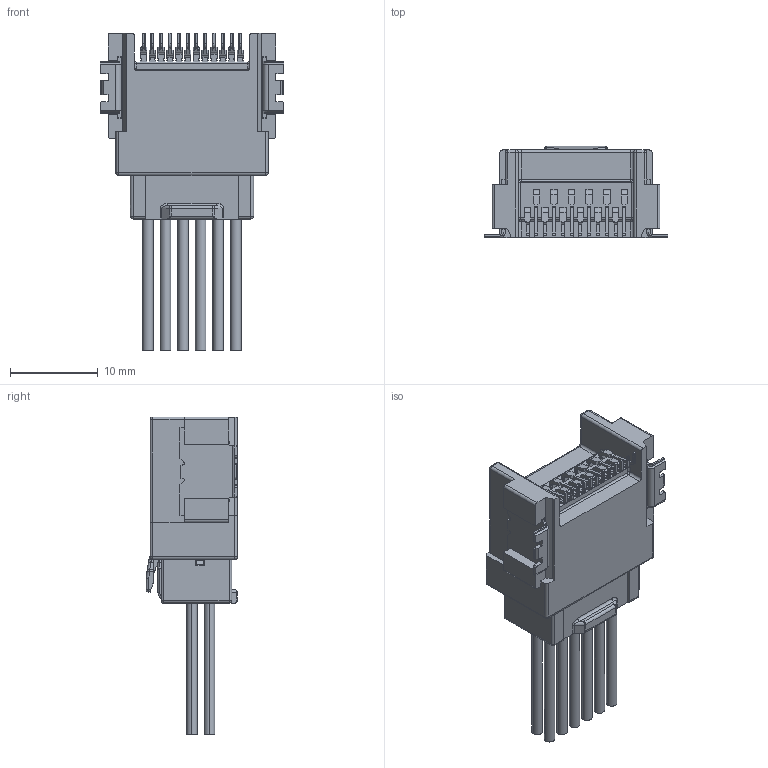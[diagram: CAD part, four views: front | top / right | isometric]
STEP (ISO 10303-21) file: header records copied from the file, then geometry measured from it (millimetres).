
FILE_DESCRIPTION (( 'STEP AP203' ), '1' );
FILE_NAME ('ISH 12P CONNECTOR.STEP', '2018-08-20T12:14:40', ( '' ), ( '' ), 'SwSTEP 2.0', 'SolidWorks 2017', '' );
FILE_SCHEMA (( 'CONFIG_CONTROL_DESIGN' ));
Length unit declared in the file: millimetre
Products named in the file (4): Part2^ISH 12P FEMALE CONNECTOR; ISH 12P FEMALE CONNECTOR_穴埋め; Part5^ISH 12P MALE CONNECTOR; ISH 12P CONNECTOR
Assembly tree (3 placements, depth 3):
  ISH 12P CONNECTOR
    ISH 12P FEMALE CONNECTOR_穴埋め
      Part2^ISH 12P FEMALE CONNECTOR
    Part5^ISH 12P MALE CONNECTOR
Bounding box: 20.9 x 10.45 x 36.15 mm (x, y, z)
Volume: 4733.3 mm3; surface area: 4304.9 mm2
Topology: 2 solids, 2 shells, 1502 faces, 4014 edges, 2558 vertices
Faces by surface type: plane 957, cylinder 419, torus 40, cone 32, sphere 30, bspline 24
Entity records: 46840 total; most frequent: CARTESIAN_POINT 9043, ORIENTED_EDGE 7976, DIRECTION 7574, EDGE_CURVE 3988, VECTOR 3024, LINE 3024, VERTEX_POINT 2558, AXIS2_PLACEMENT_3D 2275
